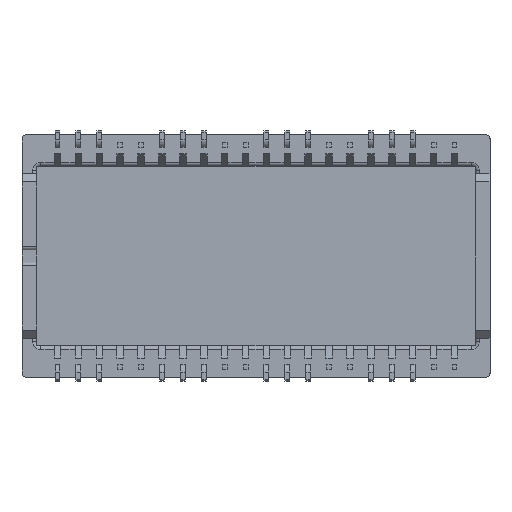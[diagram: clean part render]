
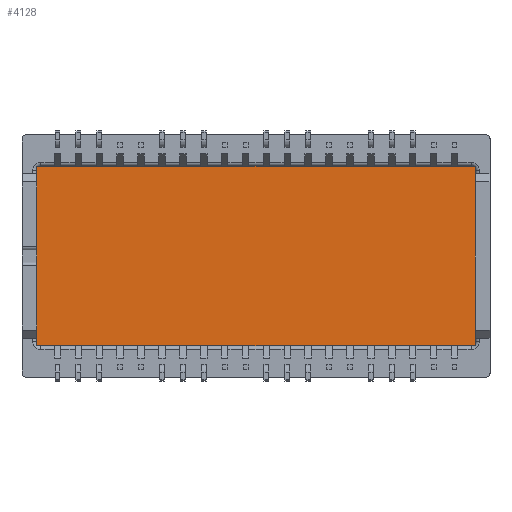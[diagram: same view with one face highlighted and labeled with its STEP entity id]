
A CAD part, front view. The second image highlights one B-rep face of the part: STEP entity #4128.
In plain terms, the highlighted planar face has unit normal (0, -1, 0).
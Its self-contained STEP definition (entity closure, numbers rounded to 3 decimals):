
#520 = DIRECTION ( 'NONE',  ( 0., 0., -1. ) ) ;
#1019 = FACE_OUTER_BOUND ( 'NONE', #20455, .T. ) ;
#1071 = DIRECTION ( 'NONE',  ( 0., 0., -1. ) ) ;
#1606 = ORIENTED_EDGE ( 'NONE', *, *, #6695, .T. ) ;
#1778 = CARTESIAN_POINT ( 'NONE',  ( 13.324, 0., 5. ) ) ;
#2504 = LINE ( 'NONE', #7102, #3105 ) ;
#2597 = VERTEX_POINT ( 'NONE', #17306 ) ;
#3105 = VECTOR ( 'NONE', #3921, 1000. ) ;
#3554 = VERTEX_POINT ( 'NONE', #14936 ) ;
#3658 = VECTOR ( 'NONE', #21983, 1000. ) ;
#3760 = ORIENTED_EDGE ( 'NONE', *, *, #4332, .T. ) ;
#3767 = ORIENTED_EDGE ( 'NONE', *, *, #8493, .T. ) ;
#3775 = DIRECTION ( 'NONE',  ( 1., 0., 0. ) ) ;
#3921 = DIRECTION ( 'NONE',  ( 0., 0., 1. ) ) ;
#4128 = ADVANCED_FACE ( 'NONE', ( #1019 ), #21275, .T. ) ;
#4332 = EDGE_CURVE ( 'NONE', #18733, #12791, #20281, .T. ) ;
#4511 = LINE ( 'NONE', #10957, #9681 ) ;
#4909 = LINE ( 'NONE', #12723, #14706 ) ;
#5326 = EDGE_CURVE ( 'NONE', #8455, #2597, #4909, .T. ) ;
#5602 = DIRECTION ( 'NONE',  ( 0., -1., 0. ) ) ;
#5786 = DIRECTION ( 'NONE',  ( -1., 0., 0. ) ) ;
#5801 = CARTESIAN_POINT ( 'NONE',  ( -13.324, 0., -5.45 ) ) ;
#6695 = EDGE_CURVE ( 'NONE', #23445, #8006, #22569, .T. ) ;
#7102 = CARTESIAN_POINT ( 'NONE',  ( 13.324, 0., -5.45 ) ) ;
#7861 = EDGE_CURVE ( 'NONE', #12791, #23445, #2504, .T. ) ;
#8006 = VERTEX_POINT ( 'NONE', #1778 ) ;
#8455 = VERTEX_POINT ( 'NONE', #16317 ) ;
#8493 = EDGE_CURVE ( 'NONE', #2597, #3554, #14651, .T. ) ;
#8901 = ORIENTED_EDGE ( 'NONE', *, *, #11621, .T. ) ;
#9498 = CARTESIAN_POINT ( 'NONE',  ( 0., 0., 0. ) ) ;
#9681 = VECTOR ( 'NONE', #1071, 1000. ) ;
#9829 = VECTOR ( 'NONE', #3775, 1000. ) ;
#9852 = CARTESIAN_POINT ( 'NONE',  ( 13.324, 0., 5.45 ) ) ;
#10635 = DIRECTION ( 'NONE',  ( 0., 0., 1. ) ) ;
#10957 = CARTESIAN_POINT ( 'NONE',  ( -13.324, 0., -5.45 ) ) ;
#11384 = EDGE_CURVE ( 'NONE', #24684, #8455, #24133, .T. ) ;
#11621 = EDGE_CURVE ( 'NONE', #3554, #18733, #4511, .T. ) ;
#12723 = CARTESIAN_POINT ( 'NONE',  ( -13.324, 0., -5.45 ) ) ;
#12791 = VERTEX_POINT ( 'NONE', #14759 ) ;
#14310 = ORIENTED_EDGE ( 'NONE', *, *, #21968, .T. ) ;
#14359 = AXIS2_PLACEMENT_3D ( 'NONE', #9498, #5602, #19293 ) ;
#14651 = LINE ( 'NONE', #5801, #3658 ) ;
#14706 = VECTOR ( 'NONE', #520, 1000. ) ;
#14759 = CARTESIAN_POINT ( 'NONE',  ( 13.324, 0., -5.45 ) ) ;
#14936 = CARTESIAN_POINT ( 'NONE',  ( -13.324, 0., -5. ) ) ;
#15698 = VECTOR ( 'NONE', #21037, 1000. ) ;
#16317 = CARTESIAN_POINT ( 'NONE',  ( -13.324, 0., 5.45 ) ) ;
#16342 = CARTESIAN_POINT ( 'NONE',  ( 13.324, 0., -5. ) ) ;
#17306 = CARTESIAN_POINT ( 'NONE',  ( -13.324, 0., 5. ) ) ;
#17349 = VECTOR ( 'NONE', #10635, 1000. ) ;
#18609 = CARTESIAN_POINT ( 'NONE',  ( -13.324, 0., -5.45 ) ) ;
#18733 = VERTEX_POINT ( 'NONE', #18609 ) ;
#18918 = VECTOR ( 'NONE', #5786, 1000. ) ;
#19067 = CARTESIAN_POINT ( 'NONE',  ( 13.324, 0., -5.45 ) ) ;
#19293 = DIRECTION ( 'NONE',  ( 0., 0., -1. ) ) ;
#20281 = LINE ( 'NONE', #23259, #9829 ) ;
#20455 = EDGE_LOOP ( 'NONE', ( #24691, #3767, #8901, #3760, #21112, #1606, #14310, #20890 ) ) ;
#20890 = ORIENTED_EDGE ( 'NONE', *, *, #11384, .T. ) ;
#21037 = DIRECTION ( 'NONE',  ( 0., 0., 1. ) ) ;
#21112 = ORIENTED_EDGE ( 'NONE', *, *, #7861, .T. ) ;
#21275 = PLANE ( 'NONE',  #14359 ) ;
#21527 = LINE ( 'NONE', #19067, #15698 ) ;
#21968 = EDGE_CURVE ( 'NONE', #8006, #24684, #21527, .T. ) ;
#21983 = DIRECTION ( 'NONE',  ( 0., 0., -1. ) ) ;
#22569 = LINE ( 'NONE', #24279, #17349 ) ;
#23259 = CARTESIAN_POINT ( 'NONE',  ( 13.324, 0., -5.45 ) ) ;
#23445 = VERTEX_POINT ( 'NONE', #16342 ) ;
#24000 = CARTESIAN_POINT ( 'NONE',  ( 13.324, 0., 5.45 ) ) ;
#24133 = LINE ( 'NONE', #9852, #18918 ) ;
#24279 = CARTESIAN_POINT ( 'NONE',  ( 13.324, 0., -5.45 ) ) ;
#24684 = VERTEX_POINT ( 'NONE', #24000 ) ;
#24691 = ORIENTED_EDGE ( 'NONE', *, *, #5326, .T. ) ;
